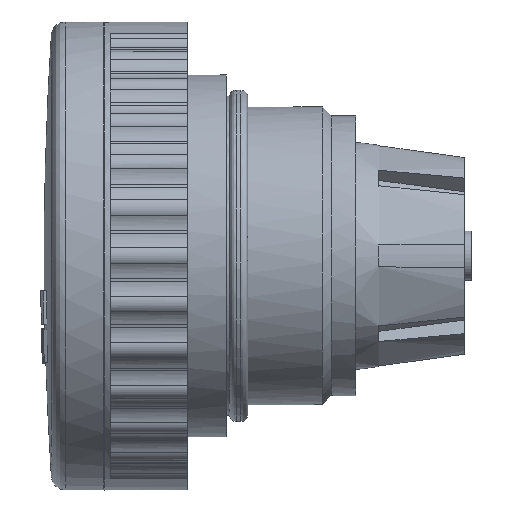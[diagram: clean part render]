
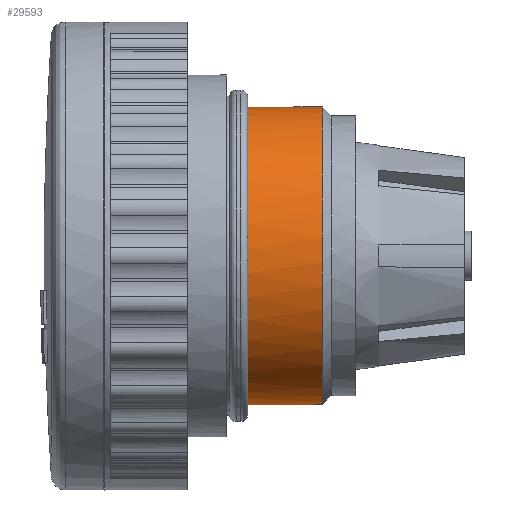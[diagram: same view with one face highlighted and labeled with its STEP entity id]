
A CAD part, left-side view. The second image highlights one B-rep face of the part: STEP entity #29593.
In plain terms, the highlighted free-form (B-spline) face has degree [2, 1] with [7, 2] control points.
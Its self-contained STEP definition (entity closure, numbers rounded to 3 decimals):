
#29513=CARTESIAN_POINT('V1079',(21.0,-13.5,
   0.));
#29514=VERTEX_POINT('V1079',#29513);
#29523=CARTESIAN_POINT('E1660',(21.0,-13.5,
   0.));
#29524=CARTESIAN_POINT('E1660',(21.,
   -13.5,-36.373));
#29525=CARTESIAN_POINT('E1660',(-10.5,
   -13.5,-18.187));
#29526=CARTESIAN_POINT('E1660',(-42.0,-13.5,
   0.));
#29527=CARTESIAN_POINT('E1660',(-10.5,
   -13.5,18.187));
#29528=CARTESIAN_POINT('E1660',(21.,
   -13.5,36.373));
#29529=CARTESIAN_POINT('E1660',(21.0,-13.5,
   0.));
#29537=(BOUNDED_CURVE()B_SPLINE_CURVE(2,(#29523,#29524,#29525,
   #29526,#29527,#29528,#29529),.CIRCULAR_ARC.,.T.,.U.)
   B_SPLINE_CURVE_WITH_KNOTS((3,2,2,3),(2.0,25.399,
   48.798,72.198),.UNSPECIFIED.)CURVE()
   GEOMETRIC_REPRESENTATION_ITEM()RATIONAL_B_SPLINE_CURVE((1.0,
   0.5,1.0,0.5,1.0,0.5,1.0)
   )REPRESENTATION_ITEM('E1660'));
#29538=EDGE_CURVE('E1660',#29514,#29514,#29537,.T.);
#29543=CARTESIAN_POINT('F620',(21.0,-18.25,
   0.));
#29544=CARTESIAN_POINT('F620',(21.,
   -18.25,-36.373));
#29545=CARTESIAN_POINT('F620',(-10.5,
   -18.25,-18.187));
#29546=CARTESIAN_POINT('F620',(-42.0,-18.25,
   0.));
#29547=CARTESIAN_POINT('F620',(-10.5,
   -18.25,18.187));
#29548=CARTESIAN_POINT('F620',(21.,
   -18.25,36.373));
#29549=CARTESIAN_POINT('F620',(21.0,-18.25,
   0.));
#29550=CARTESIAN_POINT('F620',(21.0,-0.5,0.)
   );
#29551=CARTESIAN_POINT('F620',(21.,-0.5,
   -36.373));
#29552=CARTESIAN_POINT('F620',(-10.5,
   -0.5,-18.187));
#29553=CARTESIAN_POINT('F620',(-42.0,-0.5,
   0.));
#29554=CARTESIAN_POINT('F620',(-10.5,
   -0.5,18.187));
#29555=CARTESIAN_POINT('F620',(21.,-0.5,
   36.373));
#29556=CARTESIAN_POINT('F620',(21.0,-0.5,0.)
   );
#29564=(BOUNDED_SURFACE()B_SPLINE_SURFACE(2,1,((#29543,#29550),(
   #29544,#29551),(#29545,#29552),(#29546,#29553),(#29547,
   #29554),(#29548,#29555),(#29549,#29556)),.CYLINDRICAL_SURF.,
   .T.,.F.,.U.)B_SPLINE_SURFACE_WITH_KNOTS((3,2,2,3),(2,2),(0.0,
   4.098,8.197,12.295),(0.0,1.0),
   .UNSPECIFIED.)GEOMETRIC_REPRESENTATION_ITEM()
   RATIONAL_B_SPLINE_SURFACE(((1.0,1.0),(0.5,
   0.5),(1.0,1.0),(0.5,
   0.5),(1.0,1.0),(0.5,
   0.5),(1.0,1.0)))REPRESENTATION_ITEM('F620')
   SURFACE());
#29565=CARTESIAN_POINT('V1084',(21.0,-2.681,
   0.));
#29566=VERTEX_POINT('V1084',#29565);
#29567=CARTESIAN_POINT('E1667',(21.0,-2.681,
   0.));
#29568=CARTESIAN_POINT('E1667',(21.,
   -2.681,36.373));
#29569=CARTESIAN_POINT('E1667',(-10.5,
   -2.681,18.187));
#29570=CARTESIAN_POINT('E1667',(-42.0,-2.681,
   0.));
#29571=CARTESIAN_POINT('E1667',(-10.5,
   -2.681,-18.187));
#29572=CARTESIAN_POINT('E1667',(21.,
   -2.681,-36.373));
#29573=CARTESIAN_POINT('E1667',(21.0,-2.681,
   0.));
#29581=(BOUNDED_CURVE()B_SPLINE_CURVE(2,(#29567,#29568,#29569,
   #29570,#29571,#29572,#29573),.CIRCULAR_ARC.,.T.,.U.)
   B_SPLINE_CURVE_WITH_KNOTS((3,2,2,3),(0.0,4.098,
   8.197,12.295),.UNSPECIFIED.)CURVE()
   GEOMETRIC_REPRESENTATION_ITEM()RATIONAL_B_SPLINE_CURVE((1.0,
   0.5,1.0,0.5,1.0,0.5,1.0)
   )REPRESENTATION_ITEM('E1667'));
#29582=EDGE_CURVE('E1667',#29566,#29566,#29581,.T.);
#29583=ORIENTED_EDGE('E1667',*,*,#29582,.T.);
#29584=CARTESIAN_POINT('E1668',(21.0,-2.681,0.0));
#29585=CARTESIAN_POINT('E1668',(21.0,-13.5,0.0));
#29586=B_SPLINE_CURVE_WITH_KNOTS('E1668',1,(#29584,#29585),
   .POLYLINE_FORM.,.F.,.U.,(2,2),(0.123,
   0.732),.UNSPECIFIED.);
#29587=EDGE_CURVE('E1668',#29566,#29514,#29586,.T.);
#29588=ORIENTED_EDGE('E1668',*,*,#29587,.T.);
#29589=ORIENTED_EDGE('F616',*,*,#29538,.T.);
#29590=ORIENTED_EDGE('E1668',*,*,#29587,.F.);
#29591=EDGE_LOOP('F620',(#29583,#29588,#29589,#29590));
#29592=FACE_OUTER_BOUND('F620',#29591,.T.);
#29593=ADVANCED_FACE('F620',(#29592),#29564,.T.);
